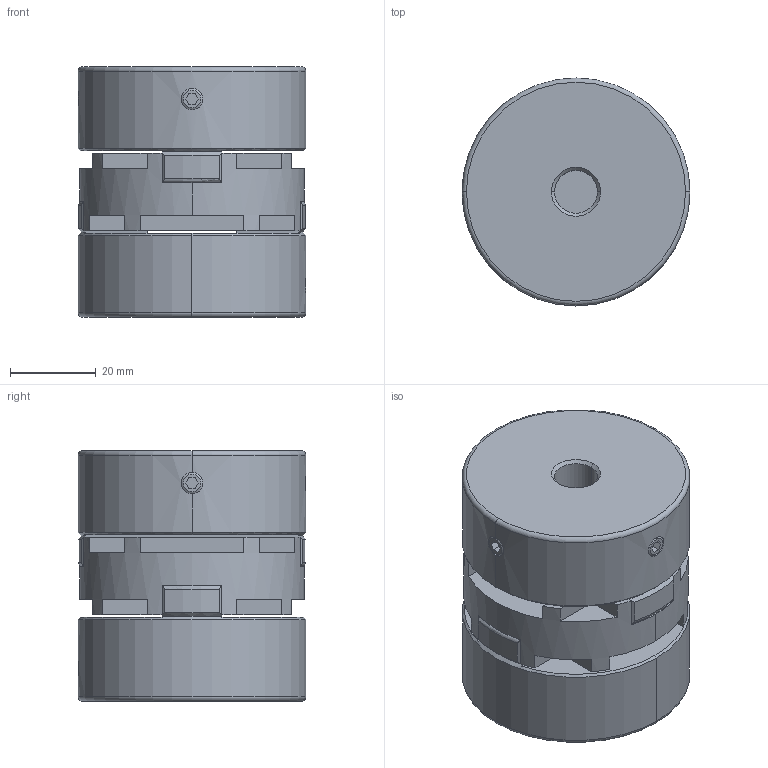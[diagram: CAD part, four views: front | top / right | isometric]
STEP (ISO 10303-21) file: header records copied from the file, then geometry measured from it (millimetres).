
FILE_DESCRIPTION (( 'STEP AP203' ), '1' );
FILE_NAME ('SOH-53-10X25_203.STEP', '2013-01-28T05:24:05', ( '' ), ( '' ), 'SwSTEP 2.0', 'SolidWorks 2012', '' );
FILE_SCHEMA (( 'CONFIG_CONTROL_DESIGN' ));
Length unit declared in the file: millimetre
Products named in the file (1): SOH-53-10X25_203
Bounding box: 53 x 53 x 58.3 mm (x, y, z)
Volume: 101868.2 mm3; surface area: 24947.2 mm2
Topology: 1 solids, 1 shells, 201 faces, 578 edges, 372 vertices
Faces by surface type: plane 133, cylinder 30, cone 20, torus 10, sphere 8
Entity records: 7198 total; most frequent: CARTESIAN_POINT 1843, ORIENTED_EDGE 1156, DIRECTION 1052, EDGE_CURVE 578, VERTEX_POINT 372, VECTOR 372, LINE 372, AXIS2_PLACEMENT_3D 340
